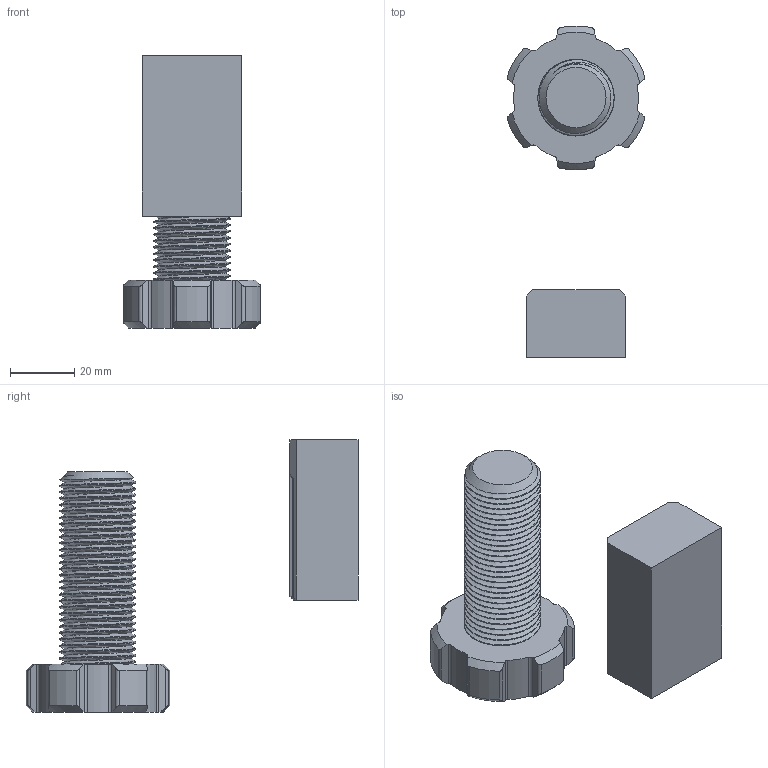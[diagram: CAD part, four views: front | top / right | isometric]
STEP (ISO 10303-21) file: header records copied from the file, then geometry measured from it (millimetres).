
FILE_DESCRIPTION(/* description */ (''),/* implementation_level */ '2;1');
FILE_NAME(/* name */ 'Modular Clamp V1 - 0.5 tolerance v2.step',/* time_stamp */ '2023-06-19T21:52:42+02:00',/* author */ (''),/* organization */ (''),/* preprocessor_version */ 'ST-DEVELOPER v19.2',/* originating_system */ 'Autodesk Translation Framework v12.6.0.85',/* authorisation */ '');
FILE_SCHEMA (('AUTOMOTIVE_DESIGN { 1 0 10303 214 3 1 1 }'));
Length unit declared in the file: millimetre
Products named in the file (1): Modular Clamp V1 - 0.5 tolerance
Bounding box: 43.03 x 103.7 x 85 mm (x, y, z)
Volume: 71349.1 mm3; surface area: 20892.3 mm2
Topology: 2 solids, 2 shells, 131 faces, 366 edges, 240 vertices
Faces by surface type: cylinder 68, plane 44, cone 17, bspline 2
Full cylindrical faces by diameter (mm): 23.822 x28
Entity records: 11417 total; most frequent: CARTESIAN_POINT 8206, ORIENTED_EDGE 732, DIRECTION 583, EDGE_CURVE 366, VERTEX_POINT 240, AXIS2_PLACEMENT_3D 201, LINE 181, VECTOR 181
